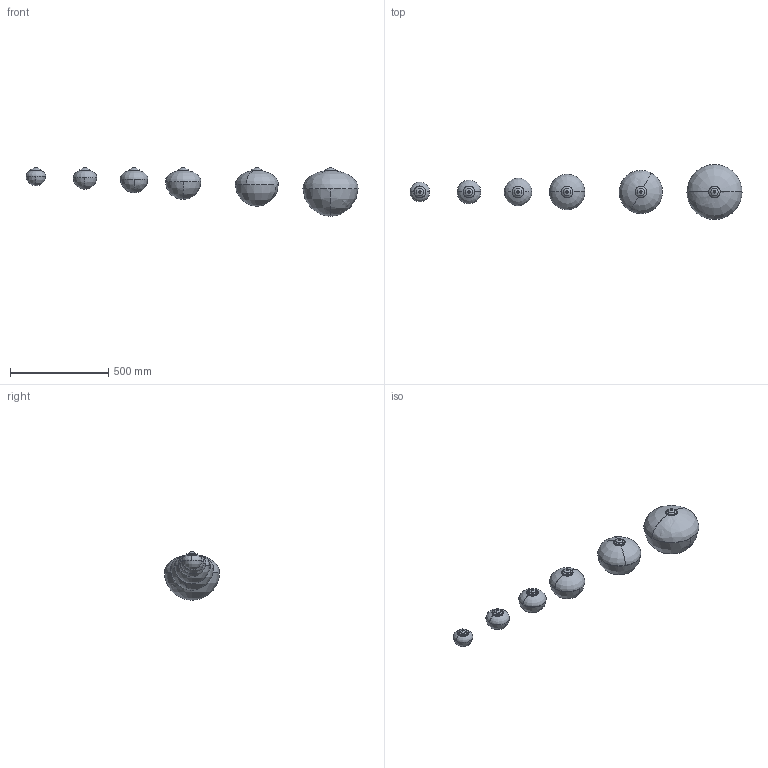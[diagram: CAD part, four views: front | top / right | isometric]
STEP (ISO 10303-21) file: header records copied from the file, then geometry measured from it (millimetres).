
FILE_DESCRIPTION(/* description */ (''),/* implementation_level */ '2;1');
FILE_NAME(/* name */ 'Kyo - AllMod - Semplificati',/* time_stamp */ '2026-06-23T14:32:47+02:00',/* author */ (''),/* organization */ (''),/* preprocessor_version */ 'ST-DEVELOPER v19.2',/* originating_system */ 'Rhino 8.26',/* authorisation */ '');
FILE_SCHEMA (('CONFIG_CONTROL_DESIGN'));
Length unit declared in the file: millimetre
Products named in the file (1): Document
Bounding box: 1690 x 280 x 245.66 mm (x, y, z)
Volume: 1281695.8 mm3; surface area: 1238478.8 mm2
Topology: 48 solids, 48 shells, 606 faces, 1662 edges, 1188 vertices
Faces by surface type: cylinder 282, bspline 174, plane 150
Entity records: 33436 total; most frequent: CARTESIAN_POINT 17950, ORIENTED_EDGE 3276, DIRECTION 2536, EDGE_CURVE 1638, AXIS2_PLACEMENT_3D 1484, VERTEX_POINT 1188, CIRCLE 1050, TRIMMED_CURVE 1038
